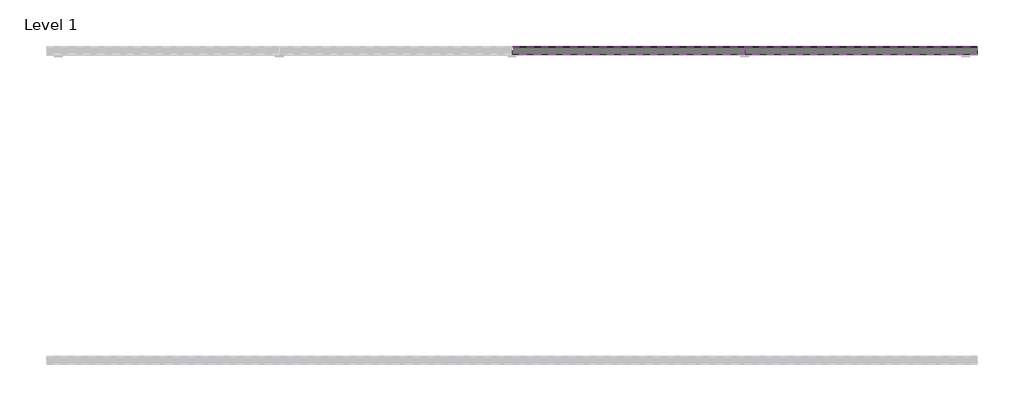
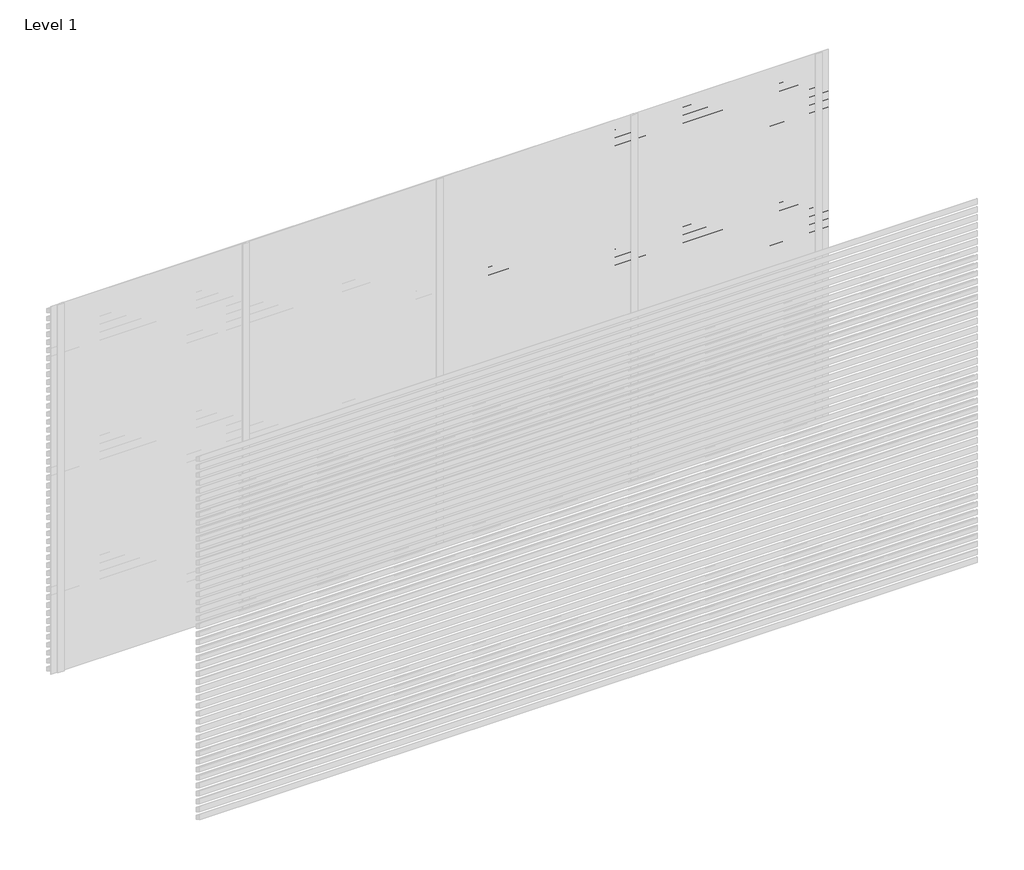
# One storey, part 10 of 10: 102 proxies.
"""IFC4 building model written with IfcOpenShell, lengths in millimetres."""

from ifc_helpers import new_model, si_unit, frame, origin, place, context, project, spatial, polyline, outline, extrude, element, save

model = new_model("IFC4")

# Units and contexts
model_context = context("Model", 3, world=origin())
ifc_project = project(units=[si_unit("LENGTHUNIT", "METRE", prefix="MILLI")], contexts=[model_context])

# Site, building, storey
site = spatial("IfcSite", under=ifc_project)
building = spatial("IfcBuilding", under=site)
storey = spatial("IfcBuildingStorey", under=building, Name="Level 1", Elevation=0.0)

# Proxies
placement = place(None, origin())
element("IfcBuildingElementProxy", 1, Name="Wall Sweeps", at=placement, inside=storey, context=model_context, shape_type="SweptSolid", body=[
    extrude(outline(polyline([(5.0, 650.0), (5.0, 641.2901632), (54.0, 613.0), (54.0, 578.0), (3.0, 607.4448637), (3.0, 650.0), (5.0, 650.0)])), frame((1500.0, 0.0, 0.0), z_axis=(1.0, 0.0, 0.0), x_axis=(0.0, 1.0, 0.0)), (0.0, 0.0, 1.0), 1500.0),
])
element("IfcBuildingElementProxy", 2, Name="Wall Sweeps", at=placement, inside=storey, context=model_context, shape_type="SweptSolid", body=[
    extrude(outline(polyline([(5.0, 585.0), (5.0, 576.2901632), (54.0, 548.0), (54.0, 513.0), (3.0, 542.4448637), (3.0, 585.0), (5.0, 585.0)])), frame((1500.0, 0.0, 0.0), z_axis=(1.0, 0.0, 0.0), x_axis=(0.0, 1.0, 0.0)), (0.0, 0.0, 1.0), 1500.0),
])
element("IfcBuildingElementProxy", 3, Name="Wall Sweeps", at=placement, inside=storey, context=model_context, shape_type="SweptSolid", body=[
    extrude(outline(polyline([(5.0, 520.0), (5.0, 511.2901632), (54.0, 483.0), (54.0, 448.0), (3.0, 477.4448637), (3.0, 520.0), (5.0, 520.0)])), frame((1500.0, 0.0, 0.0), z_axis=(1.0, 0.0, 0.0), x_axis=(0.0, 1.0, 0.0)), (0.0, 0.0, 1.0), 1500.0),
])
element("IfcBuildingElementProxy", 4, Name="Wall Sweeps", at=placement, inside=storey, context=model_context, shape_type="SweptSolid", body=[
    extrude(outline(polyline([(5.0, 455.0), (5.0, 446.2901632), (54.0, 418.0), (54.0, 383.0), (3.0, 412.4448637), (3.0, 455.0), (5.0, 455.0)])), frame((1500.0, 0.0, 0.0), z_axis=(1.0, 0.0, 0.0), x_axis=(0.0, 1.0, 0.0)), (0.0, 0.0, 1.0), 1500.0),
])
element("IfcBuildingElementProxy", 5, Name="Wall Sweeps", at=placement, inside=storey, context=model_context, shape_type="SweptSolid", body=[
    extrude(outline(polyline([(5.0, 390.0), (5.0, 381.2901632), (54.0, 353.0), (54.0, 318.0), (3.0, 347.4448637), (3.0, 390.0), (5.0, 390.0)])), frame((1500.0, 0.0, 0.0), z_axis=(1.0, 0.0, 0.0), x_axis=(0.0, 1.0, 0.0)), (0.0, 0.0, 1.0), 1500.0),
])
element("IfcBuildingElementProxy", 6, Name="Wall Sweeps", at=placement, inside=storey, context=model_context, shape_type="SweptSolid", body=[
    extrude(outline(polyline([(5.0, 325.0), (5.0, 316.2901632), (54.0, 288.0), (54.0, 253.0), (3.0, 282.4448637), (3.0, 325.0), (5.0, 325.0)])), frame((1500.0, 0.0, 0.0), z_axis=(1.0, 0.0, 0.0), x_axis=(0.0, 1.0, 0.0)), (0.0, 0.0, 1.0), 1500.0),
])
element("IfcBuildingElementProxy", 7, Name="Wall Sweeps", at=placement, inside=storey, context=model_context, shape_type="SweptSolid", body=[
    extrude(outline(polyline([(5.0, 260.0), (5.0, 251.2901632), (54.0, 223.0), (54.0, 188.0), (3.0, 217.4448637), (3.0, 260.0), (5.0, 260.0)])), frame((1500.0, 0.0, 0.0), z_axis=(1.0, 0.0, 0.0), x_axis=(0.0, 1.0, 0.0)), (0.0, 0.0, 1.0), 1500.0),
])
element("IfcBuildingElementProxy", 8, Name="Wall Sweeps", at=placement, inside=storey, context=model_context, shape_type="SweptSolid", body=[
    extrude(outline(polyline([(5.0, 195.0), (5.0, 186.2901632), (54.0, 158.0), (54.0, 123.0), (3.0, 152.4448637), (3.0, 195.0), (5.0, 195.0)])), frame((1500.0, 0.0, 0.0), z_axis=(1.0, 0.0, 0.0), x_axis=(0.0, 1.0, 0.0)), (0.0, 0.0, 1.0), 1500.0),
])
element("IfcBuildingElementProxy", 9, Name="Wall Sweeps", at=placement, inside=storey, context=model_context, shape_type="SweptSolid", body=[
    extrude(outline(polyline([(5.0, 130.0), (5.0, 121.2901632), (54.0, 93.0), (54.0, 58.0), (3.0, 87.4448637), (3.0, 130.0), (5.0, 130.0)])), frame((1500.0, 0.0, 0.0), z_axis=(1.0, 0.0, 0.0), x_axis=(0.0, 1.0, 0.0)), (0.0, 0.0, 1.0), 1500.0),
])
element("IfcBuildingElementProxy", 10, Name="Wall Sweeps", at=placement, inside=storey, context=model_context, shape_type="SweptSolid", body=[
    extrude(outline(polyline([(5.0, 65.0), (5.0, 56.2901632), (54.0, 28.0), (54.0, -7.0), (3.0, 22.4448637), (3.0, 65.0), (5.0, 65.0)])), frame((1500.0, 0.0, 0.0), z_axis=(1.0, 0.0, 0.0), x_axis=(0.0, 1.0, 0.0)), (0.0, 0.0, 1.0), 1500.0),
])
element("IfcBuildingElementProxy", 11, Name="Wall Sweeps", at=placement, inside=storey, context=model_context, shape_type="SweptSolid", body=[
    extrude(outline(polyline([(5.0, 2990.0), (5.0, 2981.2901632), (54.0, 2953.0), (54.0, 2918.0), (3.0, 2947.4448637), (3.0, 2990.0), (5.0, 2990.0)])), frame((3000.0, 0.0, 0.0), z_axis=(1.0, 0.0, 0.0), x_axis=(0.0, 1.0, 0.0)), (0.0, 0.0, 1.0), 1500.0),
])
element("IfcBuildingElementProxy", 12, Name="Wall Sweeps", at=placement, inside=storey, context=model_context, shape_type="SweptSolid", body=[
    extrude(outline(polyline([(5.0, 2925.0), (5.0, 2916.2901632), (54.0, 2888.0), (54.0, 2853.0), (3.0, 2882.4448637), (3.0, 2925.0), (5.0, 2925.0)])), frame((3000.0, 0.0, 0.0), z_axis=(1.0, 0.0, 0.0), x_axis=(0.0, 1.0, 0.0)), (0.0, 0.0, 1.0), 1500.0),
])
element("IfcBuildingElementProxy", 13, Name="Wall Sweeps", at=placement, inside=storey, context=model_context, shape_type="SweptSolid", body=[
    extrude(outline(polyline([(5.0, 2860.0), (5.0, 2851.2901632), (54.0, 2823.0), (54.0, 2788.0), (3.0, 2817.4448637), (3.0, 2860.0), (5.0, 2860.0)])), frame((3000.0, 0.0, 0.0), z_axis=(1.0, 0.0, 0.0), x_axis=(0.0, 1.0, 0.0)), (0.0, 0.0, 1.0), 1500.0),
])
element("IfcBuildingElementProxy", 14, Name="Wall Sweeps", at=placement, inside=storey, context=model_context, shape_type="SweptSolid", body=[
    extrude(outline(polyline([(5.0, 2795.0), (5.0, 2786.2901632), (54.0, 2758.0), (54.0, 2723.0), (3.0, 2752.4448637), (3.0, 2795.0), (5.0, 2795.0)])), frame((3000.0, 0.0, 0.0), z_axis=(1.0, 0.0, 0.0), x_axis=(0.0, 1.0, 0.0)), (0.0, 0.0, 1.0), 1500.0),
])
element("IfcBuildingElementProxy", 15, Name="Wall Sweeps", at=placement, inside=storey, context=model_context, shape_type="SweptSolid", body=[
    extrude(outline(polyline([(5.0, 2730.0), (5.0, 2721.2901632), (54.0, 2693.0), (54.0, 2658.0), (3.0, 2687.4448637), (3.0, 2730.0), (5.0, 2730.0)])), frame((3000.0, 0.0, 0.0), z_axis=(1.0, 0.0, 0.0), x_axis=(0.0, 1.0, 0.0)), (0.0, 0.0, 1.0), 1500.0),
])
element("IfcBuildingElementProxy", 16, Name="Wall Sweeps", at=placement, inside=storey, context=model_context, shape_type="SweptSolid", body=[
    extrude(outline(polyline([(5.0, 2665.0), (5.0, 2656.2901632), (54.0, 2628.0), (54.0, 2593.0), (3.0, 2622.4448637), (3.0, 2665.0), (5.0, 2665.0)])), frame((3000.0, 0.0, 0.0), z_axis=(1.0, 0.0, 0.0), x_axis=(0.0, 1.0, 0.0)), (0.0, 0.0, 1.0), 1500.0),
])
element("IfcBuildingElementProxy", 17, Name="Wall Sweeps", at=placement, inside=storey, context=model_context, shape_type="SweptSolid", body=[
    extrude(outline(polyline([(5.0, 2600.0), (5.0, 2591.2901632), (54.0, 2563.0), (54.0, 2528.0), (3.0, 2557.4448637), (3.0, 2600.0), (5.0, 2600.0)])), frame((3000.0, 0.0, 0.0), z_axis=(1.0, 0.0, 0.0), x_axis=(0.0, 1.0, 0.0)), (0.0, 0.0, 1.0), 1500.0),
])
element("IfcBuildingElementProxy", 18, Name="Wall Sweeps", at=placement, inside=storey, context=model_context, shape_type="SweptSolid", body=[
    extrude(outline(polyline([(5.0, 2535.0), (5.0, 2526.2901632), (54.0, 2498.0), (54.0, 2463.0), (3.0, 2492.4448637), (3.0, 2535.0), (5.0, 2535.0)])), frame((3000.0, 0.0, 0.0), z_axis=(1.0, 0.0, 0.0), x_axis=(0.0, 1.0, 0.0)), (0.0, 0.0, 1.0), 1500.0),
])
element("IfcBuildingElementProxy", 19, Name="Wall Sweeps", at=placement, inside=storey, context=model_context, shape_type="SweptSolid", body=[
    extrude(outline(polyline([(5.0, 2470.0), (5.0, 2461.2901632), (54.0, 2433.0), (54.0, 2398.0), (3.0, 2427.4448637), (3.0, 2470.0), (5.0, 2470.0)])), frame((3000.0, 0.0, 0.0), z_axis=(1.0, 0.0, 0.0), x_axis=(0.0, 1.0, 0.0)), (0.0, 0.0, 1.0), 1500.0),
])
element("IfcBuildingElementProxy", 20, Name="Wall Sweeps", at=placement, inside=storey, context=model_context, shape_type="SweptSolid", body=[
    extrude(outline(polyline([(5.0, 2405.0), (5.0, 2396.2901632), (54.0, 2368.0), (54.0, 2333.0), (3.0, 2362.4448637), (3.0, 2405.0), (5.0, 2405.0)])), frame((3000.0, 0.0, 0.0), z_axis=(1.0, 0.0, 0.0), x_axis=(0.0, 1.0, 0.0)), (0.0, 0.0, 1.0), 1500.0),
])
element("IfcBuildingElementProxy", 21, Name="Wall Sweeps", at=placement, inside=storey, context=model_context, shape_type="SweptSolid", body=[
    extrude(outline(polyline([(5.0, 2340.0), (5.0, 2331.2901632), (54.0, 2303.0), (54.0, 2268.0), (3.0, 2297.4448637), (3.0, 2340.0), (5.0, 2340.0)])), frame((3000.0, 0.0, 0.0), z_axis=(1.0, 0.0, 0.0), x_axis=(0.0, 1.0, 0.0)), (0.0, 0.0, 1.0), 1500.0),
])
element("IfcBuildingElementProxy", 22, Name="Wall Sweeps", at=placement, inside=storey, context=model_context, shape_type="SweptSolid", body=[
    extrude(outline(polyline([(5.0, 2275.0), (5.0, 2266.2901632), (54.0, 2238.0), (54.0, 2203.0), (3.0, 2232.4448637), (3.0, 2275.0), (5.0, 2275.0)])), frame((3000.0, 0.0, 0.0), z_axis=(1.0, 0.0, 0.0), x_axis=(0.0, 1.0, 0.0)), (0.0, 0.0, 1.0), 1500.0),
])
element("IfcBuildingElementProxy", 23, Name="Wall Sweeps", at=placement, inside=storey, context=model_context, shape_type="SweptSolid", body=[
    extrude(outline(polyline([(5.0, 2210.0), (5.0, 2201.2901632), (54.0, 2173.0), (54.0, 2138.0), (3.0, 2167.4448637), (3.0, 2210.0), (5.0, 2210.0)])), frame((3000.0, 0.0, 0.0), z_axis=(1.0, 0.0, 0.0), x_axis=(0.0, 1.0, 0.0)), (0.0, 0.0, 1.0), 1500.0),
])
element("IfcBuildingElementProxy", 24, Name="Wall Sweeps", at=placement, inside=storey, context=model_context, shape_type="SweptSolid", body=[
    extrude(outline(polyline([(5.0, 2145.0), (5.0, 2136.2901632), (54.0, 2108.0), (54.0, 2073.0), (3.0, 2102.4448637), (3.0, 2145.0), (5.0, 2145.0)])), frame((3000.0, 0.0, 0.0), z_axis=(1.0, 0.0, 0.0), x_axis=(0.0, 1.0, 0.0)), (0.0, 0.0, 1.0), 1500.0),
])
element("IfcBuildingElementProxy", 25, Name="Wall Sweeps", at=placement, inside=storey, context=model_context, shape_type="SweptSolid", body=[
    extrude(outline(polyline([(5.0, 2080.0), (5.0, 2071.2901632), (54.0, 2043.0), (54.0, 2008.0), (3.0, 2037.4448637), (3.0, 2080.0), (5.0, 2080.0)])), frame((3000.0, 0.0, 0.0), z_axis=(1.0, 0.0, 0.0), x_axis=(0.0, 1.0, 0.0)), (0.0, 0.0, 1.0), 1500.0),
])
element("IfcBuildingElementProxy", 26, Name="Wall Sweeps", at=placement, inside=storey, context=model_context, shape_type="SweptSolid", body=[
    extrude(outline(polyline([(5.0, 2015.0), (5.0, 2006.2901632), (54.0, 1978.0), (54.0, 1943.0), (3.0, 1972.4448637), (3.0, 2015.0), (5.0, 2015.0)])), frame((3000.0, 0.0, 0.0), z_axis=(1.0, 0.0, 0.0), x_axis=(0.0, 1.0, 0.0)), (0.0, 0.0, 1.0), 1500.0),
])
element("IfcBuildingElementProxy", 27, Name="Wall Sweeps", at=placement, inside=storey, context=model_context, shape_type="SweptSolid", body=[
    extrude(outline(polyline([(5.0, 1950.0), (5.0, 1941.2901632), (54.0, 1913.0), (54.0, 1878.0), (3.0, 1907.4448637), (3.0, 1950.0), (5.0, 1950.0)])), frame((3000.0, 0.0, 0.0), z_axis=(1.0, 0.0, 0.0), x_axis=(0.0, 1.0, 0.0)), (0.0, 0.0, 1.0), 1500.0),
])
element("IfcBuildingElementProxy", 28, Name="Wall Sweeps", at=placement, inside=storey, context=model_context, shape_type="SweptSolid", body=[
    extrude(outline(polyline([(5.0, 1885.0), (5.0, 1876.2901632), (54.0, 1848.0), (54.0, 1813.0), (3.0, 1842.4448637), (3.0, 1885.0), (5.0, 1885.0)])), frame((3000.0, 0.0, 0.0), z_axis=(1.0, 0.0, 0.0), x_axis=(0.0, 1.0, 0.0)), (0.0, 0.0, 1.0), 1500.0),
])
element("IfcBuildingElementProxy", 29, Name="Wall Sweeps", at=placement, inside=storey, context=model_context, shape_type="SweptSolid", body=[
    extrude(outline(polyline([(5.0, 1820.0), (5.0, 1811.2901632), (54.0, 1783.0), (54.0, 1748.0), (3.0, 1777.4448637), (3.0, 1820.0), (5.0, 1820.0)])), frame((3000.0, 0.0, 0.0), z_axis=(1.0, 0.0, 0.0), x_axis=(0.0, 1.0, 0.0)), (0.0, 0.0, 1.0), 1500.0),
])
element("IfcBuildingElementProxy", 30, Name="Wall Sweeps", at=placement, inside=storey, context=model_context, shape_type="SweptSolid", body=[
    extrude(outline(polyline([(5.0, 1755.0), (5.0, 1746.2901632), (54.0, 1718.0), (54.0, 1683.0), (3.0, 1712.4448637), (3.0, 1755.0), (5.0, 1755.0)])), frame((3000.0, 0.0, 0.0), z_axis=(1.0, 0.0, 0.0), x_axis=(0.0, 1.0, 0.0)), (0.0, 0.0, 1.0), 1500.0),
])
element("IfcBuildingElementProxy", 31, Name="Wall Sweeps", at=placement, inside=storey, context=model_context, shape_type="SweptSolid", body=[
    extrude(outline(polyline([(5.0, 1690.0), (5.0, 1681.2901632), (54.0, 1653.0), (54.0, 1618.0), (3.0, 1647.4448637), (3.0, 1690.0), (5.0, 1690.0)])), frame((3000.0, 0.0, 0.0), z_axis=(1.0, 0.0, 0.0), x_axis=(0.0, 1.0, 0.0)), (0.0, 0.0, 1.0), 1500.0),
])
element("IfcBuildingElementProxy", 32, Name="Wall Sweeps", at=placement, inside=storey, context=model_context, shape_type="SweptSolid", body=[
    extrude(outline(polyline([(5.0, 1625.0), (5.0, 1616.2901632), (54.0, 1588.0), (54.0, 1553.0), (3.0, 1582.4448637), (3.0, 1625.0), (5.0, 1625.0)])), frame((3000.0, 0.0, 0.0), z_axis=(1.0, 0.0, 0.0), x_axis=(0.0, 1.0, 0.0)), (0.0, 0.0, 1.0), 1500.0),
])
element("IfcBuildingElementProxy", 33, Name="Wall Sweeps", at=placement, inside=storey, context=model_context, shape_type="SweptSolid", body=[
    extrude(outline(polyline([(5.0, 1560.0), (5.0, 1551.2901632), (54.0, 1523.0), (54.0, 1488.0), (3.0, 1517.4448637), (3.0, 1560.0), (5.0, 1560.0)])), frame((3000.0, 0.0, 0.0), z_axis=(1.0, 0.0, 0.0), x_axis=(0.0, 1.0, 0.0)), (0.0, 0.0, 1.0), 1500.0),
])
element("IfcBuildingElementProxy", 34, Name="Wall Sweeps", at=placement, inside=storey, context=model_context, shape_type="SweptSolid", body=[
    extrude(outline(polyline([(5.0, 1495.0), (5.0, 1486.2901632), (54.0, 1458.0), (54.0, 1423.0), (3.0, 1452.4448637), (3.0, 1495.0), (5.0, 1495.0)])), frame((3000.0, 0.0, 0.0), z_axis=(1.0, 0.0, 0.0), x_axis=(0.0, 1.0, 0.0)), (0.0, 0.0, 1.0), 1500.0),
])
element("IfcBuildingElementProxy", 35, Name="Wall Sweeps", at=placement, inside=storey, context=model_context, shape_type="SweptSolid", body=[
    extrude(outline(polyline([(5.0, 1430.0), (5.0, 1421.2901632), (54.0, 1393.0), (54.0, 1358.0), (3.0, 1387.4448637), (3.0, 1430.0), (5.0, 1430.0)])), frame((3000.0, 0.0, 0.0), z_axis=(1.0, 0.0, 0.0), x_axis=(0.0, 1.0, 0.0)), (0.0, 0.0, 1.0), 1500.0),
])
element("IfcBuildingElementProxy", 36, Name="Wall Sweeps", at=placement, inside=storey, context=model_context, shape_type="SweptSolid", body=[
    extrude(outline(polyline([(5.0, 1365.0), (5.0, 1356.2901632), (54.0, 1328.0), (54.0, 1293.0), (3.0, 1322.4448637), (3.0, 1365.0), (5.0, 1365.0)])), frame((3000.0, 0.0, 0.0), z_axis=(1.0, 0.0, 0.0), x_axis=(0.0, 1.0, 0.0)), (0.0, 0.0, 1.0), 1500.0),
])
element("IfcBuildingElementProxy", 37, Name="Wall Sweeps", at=placement, inside=storey, context=model_context, shape_type="SweptSolid", body=[
    extrude(outline(polyline([(5.0, 1300.0), (5.0, 1291.2901632), (54.0, 1263.0), (54.0, 1228.0), (3.0, 1257.4448637), (3.0, 1300.0), (5.0, 1300.0)])), frame((3000.0, 0.0, 0.0), z_axis=(1.0, 0.0, 0.0), x_axis=(0.0, 1.0, 0.0)), (0.0, 0.0, 1.0), 1500.0),
])
element("IfcBuildingElementProxy", 38, Name="Wall Sweeps", at=placement, inside=storey, context=model_context, shape_type="SweptSolid", body=[
    extrude(outline(polyline([(5.0, 1235.0), (5.0, 1226.2901632), (54.0, 1198.0), (54.0, 1163.0), (3.0, 1192.4448637), (3.0, 1235.0), (5.0, 1235.0)])), frame((3000.0, 0.0, 0.0), z_axis=(1.0, 0.0, 0.0), x_axis=(0.0, 1.0, 0.0)), (0.0, 0.0, 1.0), 1500.0),
])
element("IfcBuildingElementProxy", 39, Name="Wall Sweeps", at=placement, inside=storey, context=model_context, shape_type="SweptSolid", body=[
    extrude(outline(polyline([(5.0, 1170.0), (5.0, 1161.2901632), (54.0, 1133.0), (54.0, 1098.0), (3.0, 1127.4448637), (3.0, 1170.0), (5.0, 1170.0)])), frame((3000.0, 0.0, 0.0), z_axis=(1.0, 0.0, 0.0), x_axis=(0.0, 1.0, 0.0)), (0.0, 0.0, 1.0), 1500.0),
])
element("IfcBuildingElementProxy", 40, Name="Wall Sweeps", at=placement, inside=storey, context=model_context, shape_type="SweptSolid", body=[
    extrude(outline(polyline([(5.0, 1105.0), (5.0, 1096.2901632), (54.0, 1068.0), (54.0, 1033.0), (3.0, 1062.4448637), (3.0, 1105.0), (5.0, 1105.0)])), frame((3000.0, 0.0, 0.0), z_axis=(1.0, 0.0, 0.0), x_axis=(0.0, 1.0, 0.0)), (0.0, 0.0, 1.0), 1500.0),
])
element("IfcBuildingElementProxy", 41, Name="Wall Sweeps", at=placement, inside=storey, context=model_context, shape_type="SweptSolid", body=[
    extrude(outline(polyline([(5.0, 1040.0), (5.0, 1031.2901632), (54.0, 1003.0), (54.0, 968.0), (3.0, 997.4448637), (3.0, 1040.0), (5.0, 1040.0)])), frame((3000.0, 0.0, 0.0), z_axis=(1.0, 0.0, 0.0), x_axis=(0.0, 1.0, 0.0)), (0.0, 0.0, 1.0), 1500.0),
])
element("IfcBuildingElementProxy", 42, Name="Wall Sweeps", at=placement, inside=storey, context=model_context, shape_type="SweptSolid", body=[
    extrude(outline(polyline([(5.0, 975.0), (5.0, 966.2901632), (54.0, 938.0), (54.0, 903.0), (3.0, 932.4448637), (3.0, 975.0), (5.0, 975.0)])), frame((3000.0, 0.0, 0.0), z_axis=(1.0, 0.0, 0.0), x_axis=(0.0, 1.0, 0.0)), (0.0, 0.0, 1.0), 1500.0),
])
element("IfcBuildingElementProxy", 43, Name="Wall Sweeps", at=placement, inside=storey, context=model_context, shape_type="SweptSolid", body=[
    extrude(outline(polyline([(5.0, 910.0), (5.0, 901.2901632), (54.0, 873.0), (54.0, 838.0), (3.0, 867.4448637), (3.0, 910.0), (5.0, 910.0)])), frame((3000.0, 0.0, 0.0), z_axis=(1.0, 0.0, 0.0), x_axis=(0.0, 1.0, 0.0)), (0.0, 0.0, 1.0), 1500.0),
])
element("IfcBuildingElementProxy", 44, Name="Wall Sweeps", at=placement, inside=storey, context=model_context, shape_type="SweptSolid", body=[
    extrude(outline(polyline([(5.0, 845.0), (5.0, 836.2901632), (54.0, 808.0), (54.0, 773.0), (3.0, 802.4448637), (3.0, 845.0), (5.0, 845.0)])), frame((3000.0, 0.0, 0.0), z_axis=(1.0, 0.0, 0.0), x_axis=(0.0, 1.0, 0.0)), (0.0, 0.0, 1.0), 1500.0),
])
element("IfcBuildingElementProxy", 45, Name="Wall Sweeps", at=placement, inside=storey, context=model_context, shape_type="SweptSolid", body=[
    extrude(outline(polyline([(5.0, 780.0), (5.0, 771.2901632), (54.0, 743.0), (54.0, 708.0), (3.0, 737.4448637), (3.0, 780.0), (5.0, 780.0)])), frame((3000.0, 0.0, 0.0), z_axis=(1.0, 0.0, 0.0), x_axis=(0.0, 1.0, 0.0)), (0.0, 0.0, 1.0), 1500.0),
])
element("IfcBuildingElementProxy", 46, Name="Wall Sweeps", at=placement, inside=storey, context=model_context, shape_type="SweptSolid", body=[
    extrude(outline(polyline([(5.0, 715.0), (5.0, 706.2901632), (54.0, 678.0), (54.0, 643.0), (3.0, 672.4448637), (3.0, 715.0), (5.0, 715.0)])), frame((3000.0, 0.0, 0.0), z_axis=(1.0, 0.0, 0.0), x_axis=(0.0, 1.0, 0.0)), (0.0, 0.0, 1.0), 1500.0),
])
element("IfcBuildingElementProxy", 47, Name="Wall Sweeps", at=placement, inside=storey, context=model_context, shape_type="SweptSolid", body=[
    extrude(outline(polyline([(5.0, 650.0), (5.0, 641.2901632), (54.0, 613.0), (54.0, 578.0), (3.0, 607.4448637), (3.0, 650.0), (5.0, 650.0)])), frame((3000.0, 0.0, 0.0), z_axis=(1.0, 0.0, 0.0), x_axis=(0.0, 1.0, 0.0)), (0.0, 0.0, 1.0), 1500.0),
])
element("IfcBuildingElementProxy", 48, Name="Wall Sweeps", at=placement, inside=storey, context=model_context, shape_type="SweptSolid", body=[
    extrude(outline(polyline([(5.0, 585.0), (5.0, 576.2901632), (54.0, 548.0), (54.0, 513.0), (3.0, 542.4448637), (3.0, 585.0), (5.0, 585.0)])), frame((3000.0, 0.0, 0.0), z_axis=(1.0, 0.0, 0.0), x_axis=(0.0, 1.0, 0.0)), (0.0, 0.0, 1.0), 1500.0),
])
element("IfcBuildingElementProxy", 49, Name="Wall Sweeps", at=placement, inside=storey, context=model_context, shape_type="SweptSolid", body=[
    extrude(outline(polyline([(5.0, 520.0), (5.0, 511.2901632), (54.0, 483.0), (54.0, 448.0), (3.0, 477.4448637), (3.0, 520.0), (5.0, 520.0)])), frame((3000.0, 0.0, 0.0), z_axis=(1.0, 0.0, 0.0), x_axis=(0.0, 1.0, 0.0)), (0.0, 0.0, 1.0), 1500.0),
])
element("IfcBuildingElementProxy", 50, Name="Wall Sweeps", at=placement, inside=storey, context=model_context, shape_type="SweptSolid", body=[
    extrude(outline(polyline([(5.0, 455.0), (5.0, 446.2901632), (54.0, 418.0), (54.0, 383.0), (3.0, 412.4448637), (3.0, 455.0), (5.0, 455.0)])), frame((3000.0, 0.0, 0.0), z_axis=(1.0, 0.0, 0.0), x_axis=(0.0, 1.0, 0.0)), (0.0, 0.0, 1.0), 1500.0),
])
element("IfcBuildingElementProxy", 51, Name="Wall Sweeps", at=placement, inside=storey, context=model_context, shape_type="SweptSolid", body=[
    extrude(outline(polyline([(5.0, 390.0), (5.0, 381.2901632), (54.0, 353.0), (54.0, 318.0), (3.0, 347.4448637), (3.0, 390.0), (5.0, 390.0)])), frame((3000.0, 0.0, 0.0), z_axis=(1.0, 0.0, 0.0), x_axis=(0.0, 1.0, 0.0)), (0.0, 0.0, 1.0), 1500.0),
])
element("IfcBuildingElementProxy", 52, Name="Wall Sweeps", at=placement, inside=storey, context=model_context, shape_type="SweptSolid", body=[
    extrude(outline(polyline([(5.0, 325.0), (5.0, 316.2901632), (54.0, 288.0), (54.0, 253.0), (3.0, 282.4448637), (3.0, 325.0), (5.0, 325.0)])), frame((3000.0, 0.0, 0.0), z_axis=(1.0, 0.0, 0.0), x_axis=(0.0, 1.0, 0.0)), (0.0, 0.0, 1.0), 1500.0),
])
element("IfcBuildingElementProxy", 53, Name="Wall Sweeps", at=placement, inside=storey, context=model_context, shape_type="SweptSolid", body=[
    extrude(outline(polyline([(5.0, 260.0), (5.0, 251.2901632), (54.0, 223.0), (54.0, 188.0), (3.0, 217.4448637), (3.0, 260.0), (5.0, 260.0)])), frame((3000.0, 0.0, 0.0), z_axis=(1.0, 0.0, 0.0), x_axis=(0.0, 1.0, 0.0)), (0.0, 0.0, 1.0), 1500.0),
])
element("IfcBuildingElementProxy", 54, Name="Wall Sweeps", at=placement, inside=storey, context=model_context, shape_type="SweptSolid", body=[
    extrude(outline(polyline([(5.0, 195.0), (5.0, 186.2901632), (54.0, 158.0), (54.0, 123.0), (3.0, 152.4448637), (3.0, 195.0), (5.0, 195.0)])), frame((3000.0, 0.0, 0.0), z_axis=(1.0, 0.0, 0.0), x_axis=(0.0, 1.0, 0.0)), (0.0, 0.0, 1.0), 1500.0),
])
element("IfcBuildingElementProxy", 55, Name="Wall Sweeps", at=placement, inside=storey, context=model_context, shape_type="SweptSolid", body=[
    extrude(outline(polyline([(5.0, 130.0), (5.0, 121.2901632), (54.0, 93.0), (54.0, 58.0), (3.0, 87.4448637), (3.0, 130.0), (5.0, 130.0)])), frame((3000.0, 0.0, 0.0), z_axis=(1.0, 0.0, 0.0), x_axis=(0.0, 1.0, 0.0)), (0.0, 0.0, 1.0), 1500.0),
])
element("IfcBuildingElementProxy", 56, Name="Wall Sweeps", at=placement, inside=storey, context=model_context, shape_type="SweptSolid", body=[
    extrude(outline(polyline([(5.0, 65.0), (5.0, 56.2901632), (54.0, 28.0), (54.0, -7.0), (3.0, 22.4448637), (3.0, 65.0), (5.0, 65.0)])), frame((3000.0, 0.0, 0.0), z_axis=(1.0, 0.0, 0.0), x_axis=(0.0, 1.0, 0.0)), (0.0, 0.0, 1.0), 1500.0),
])
element("IfcBuildingElementProxy", 57, Name="Wall Sweeps", at=placement, inside=storey, context=model_context, shape_type="SweptSolid", body=[
    extrude(outline(polyline([(5.0, 2990.0), (5.0, 2981.2901632), (54.0, 2953.0), (54.0, 2918.0), (3.0, 2947.4448637), (3.0, 2990.0), (5.0, 2990.0)])), frame((4500.0, 0.0, 0.0), z_axis=(1.0, 0.0, 0.0), x_axis=(0.0, 1.0, 0.0)), (0.0, 0.0, 1.0), 1500.0),
])
element("IfcBuildingElementProxy", 58, Name="Wall Sweeps", at=placement, inside=storey, context=model_context, shape_type="SweptSolid", body=[
    extrude(outline(polyline([(5.0, 2925.0), (5.0, 2916.2901632), (54.0, 2888.0), (54.0, 2853.0), (3.0, 2882.4448637), (3.0, 2925.0), (5.0, 2925.0)])), frame((4500.0, 0.0, 0.0), z_axis=(1.0, 0.0, 0.0), x_axis=(0.0, 1.0, 0.0)), (0.0, 0.0, 1.0), 1500.0),
])
element("IfcBuildingElementProxy", 59, Name="Wall Sweeps", at=placement, inside=storey, context=model_context, shape_type="SweptSolid", body=[
    extrude(outline(polyline([(5.0, 2860.0), (5.0, 2851.2901632), (54.0, 2823.0), (54.0, 2788.0), (3.0, 2817.4448637), (3.0, 2860.0), (5.0, 2860.0)])), frame((4500.0, 0.0, 0.0), z_axis=(1.0, 0.0, 0.0), x_axis=(0.0, 1.0, 0.0)), (0.0, 0.0, 1.0), 1500.0),
])
element("IfcBuildingElementProxy", 60, Name="Wall Sweeps", at=placement, inside=storey, context=model_context, shape_type="SweptSolid", body=[
    extrude(outline(polyline([(5.0, 2795.0), (5.0, 2786.2901632), (54.0, 2758.0), (54.0, 2723.0), (3.0, 2752.4448637), (3.0, 2795.0), (5.0, 2795.0)])), frame((4500.0, 0.0, 0.0), z_axis=(1.0, 0.0, 0.0), x_axis=(0.0, 1.0, 0.0)), (0.0, 0.0, 1.0), 1500.0),
])
element("IfcBuildingElementProxy", 61, Name="Wall Sweeps", at=placement, inside=storey, context=model_context, shape_type="SweptSolid", body=[
    extrude(outline(polyline([(5.0, 2730.0), (5.0, 2721.2901632), (54.0, 2693.0), (54.0, 2658.0), (3.0, 2687.4448637), (3.0, 2730.0), (5.0, 2730.0)])), frame((4500.0, 0.0, 0.0), z_axis=(1.0, 0.0, 0.0), x_axis=(0.0, 1.0, 0.0)), (0.0, 0.0, 1.0), 1500.0),
])
element("IfcBuildingElementProxy", 62, Name="Wall Sweeps", at=placement, inside=storey, context=model_context, shape_type="SweptSolid", body=[
    extrude(outline(polyline([(5.0, 2665.0), (5.0, 2656.2901632), (54.0, 2628.0), (54.0, 2593.0), (3.0, 2622.4448637), (3.0, 2665.0), (5.0, 2665.0)])), frame((4500.0, 0.0, 0.0), z_axis=(1.0, 0.0, 0.0), x_axis=(0.0, 1.0, 0.0)), (0.0, 0.0, 1.0), 1500.0),
])
element("IfcBuildingElementProxy", 63, Name="Wall Sweeps", at=placement, inside=storey, context=model_context, shape_type="SweptSolid", body=[
    extrude(outline(polyline([(5.0, 2600.0), (5.0, 2591.2901632), (54.0, 2563.0), (54.0, 2528.0), (3.0, 2557.4448637), (3.0, 2600.0), (5.0, 2600.0)])), frame((4500.0, 0.0, 0.0), z_axis=(1.0, 0.0, 0.0), x_axis=(0.0, 1.0, 0.0)), (0.0, 0.0, 1.0), 1500.0),
])
element("IfcBuildingElementProxy", 64, Name="Wall Sweeps", at=placement, inside=storey, context=model_context, shape_type="SweptSolid", body=[
    extrude(outline(polyline([(5.0, 2535.0), (5.0, 2526.2901632), (54.0, 2498.0), (54.0, 2463.0), (3.0, 2492.4448637), (3.0, 2535.0), (5.0, 2535.0)])), frame((4500.0, 0.0, 0.0), z_axis=(1.0, 0.0, 0.0), x_axis=(0.0, 1.0, 0.0)), (0.0, 0.0, 1.0), 1500.0),
])
element("IfcBuildingElementProxy", 65, Name="Wall Sweeps", at=placement, inside=storey, context=model_context, shape_type="SweptSolid", body=[
    extrude(outline(polyline([(5.0, 2470.0), (5.0, 2461.2901632), (54.0, 2433.0), (54.0, 2398.0), (3.0, 2427.4448637), (3.0, 2470.0), (5.0, 2470.0)])), frame((4500.0, 0.0, 0.0), z_axis=(1.0, 0.0, 0.0), x_axis=(0.0, 1.0, 0.0)), (0.0, 0.0, 1.0), 1500.0),
])
element("IfcBuildingElementProxy", 66, Name="Wall Sweeps", at=placement, inside=storey, context=model_context, shape_type="SweptSolid", body=[
    extrude(outline(polyline([(5.0, 2405.0), (5.0, 2396.2901632), (54.0, 2368.0), (54.0, 2333.0), (3.0, 2362.4448637), (3.0, 2405.0), (5.0, 2405.0)])), frame((4500.0, 0.0, 0.0), z_axis=(1.0, 0.0, 0.0), x_axis=(0.0, 1.0, 0.0)), (0.0, 0.0, 1.0), 1500.0),
])
element("IfcBuildingElementProxy", 67, Name="Wall Sweeps", at=placement, inside=storey, context=model_context, shape_type="SweptSolid", body=[
    extrude(outline(polyline([(5.0, 2340.0), (5.0, 2331.2901632), (54.0, 2303.0), (54.0, 2268.0), (3.0, 2297.4448637), (3.0, 2340.0), (5.0, 2340.0)])), frame((4500.0, 0.0, 0.0), z_axis=(1.0, 0.0, 0.0), x_axis=(0.0, 1.0, 0.0)), (0.0, 0.0, 1.0), 1500.0),
])
element("IfcBuildingElementProxy", 68, Name="Wall Sweeps", at=placement, inside=storey, context=model_context, shape_type="SweptSolid", body=[
    extrude(outline(polyline([(5.0, 2275.0), (5.0, 2266.2901632), (54.0, 2238.0), (54.0, 2203.0), (3.0, 2232.4448637), (3.0, 2275.0), (5.0, 2275.0)])), frame((4500.0, 0.0, 0.0), z_axis=(1.0, 0.0, 0.0), x_axis=(0.0, 1.0, 0.0)), (0.0, 0.0, 1.0), 1500.0),
])
element("IfcBuildingElementProxy", 69, Name="Wall Sweeps", at=placement, inside=storey, context=model_context, shape_type="SweptSolid", body=[
    extrude(outline(polyline([(5.0, 2210.0), (5.0, 2201.2901632), (54.0, 2173.0), (54.0, 2138.0), (3.0, 2167.4448637), (3.0, 2210.0), (5.0, 2210.0)])), frame((4500.0, 0.0, 0.0), z_axis=(1.0, 0.0, 0.0), x_axis=(0.0, 1.0, 0.0)), (0.0, 0.0, 1.0), 1500.0),
])
element("IfcBuildingElementProxy", 70, Name="Wall Sweeps", at=placement, inside=storey, context=model_context, shape_type="SweptSolid", body=[
    extrude(outline(polyline([(5.0, 2145.0), (5.0, 2136.2901632), (54.0, 2108.0), (54.0, 2073.0), (3.0, 2102.4448637), (3.0, 2145.0), (5.0, 2145.0)])), frame((4500.0, 0.0, 0.0), z_axis=(1.0, 0.0, 0.0), x_axis=(0.0, 1.0, 0.0)), (0.0, 0.0, 1.0), 1500.0),
])
element("IfcBuildingElementProxy", 71, Name="Wall Sweeps", at=placement, inside=storey, context=model_context, shape_type="SweptSolid", body=[
    extrude(outline(polyline([(5.0, 2080.0), (5.0, 2071.2901632), (54.0, 2043.0), (54.0, 2008.0), (3.0, 2037.4448637), (3.0, 2080.0), (5.0, 2080.0)])), frame((4500.0, 0.0, 0.0), z_axis=(1.0, 0.0, 0.0), x_axis=(0.0, 1.0, 0.0)), (0.0, 0.0, 1.0), 1500.0),
])
element("IfcBuildingElementProxy", 72, Name="Wall Sweeps", at=placement, inside=storey, context=model_context, shape_type="SweptSolid", body=[
    extrude(outline(polyline([(5.0, 2015.0), (5.0, 2006.2901632), (54.0, 1978.0), (54.0, 1943.0), (3.0, 1972.4448637), (3.0, 2015.0), (5.0, 2015.0)])), frame((4500.0, 0.0, 0.0), z_axis=(1.0, 0.0, 0.0), x_axis=(0.0, 1.0, 0.0)), (0.0, 0.0, 1.0), 1500.0),
])
element("IfcBuildingElementProxy", 73, Name="Wall Sweeps", at=placement, inside=storey, context=model_context, shape_type="SweptSolid", body=[
    extrude(outline(polyline([(5.0, 1950.0), (5.0, 1941.2901632), (54.0, 1913.0), (54.0, 1878.0), (3.0, 1907.4448637), (3.0, 1950.0), (5.0, 1950.0)])), frame((4500.0, 0.0, 0.0), z_axis=(1.0, 0.0, 0.0), x_axis=(0.0, 1.0, 0.0)), (0.0, 0.0, 1.0), 1500.0),
])
element("IfcBuildingElementProxy", 74, Name="Wall Sweeps", at=placement, inside=storey, context=model_context, shape_type="SweptSolid", body=[
    extrude(outline(polyline([(5.0, 1885.0), (5.0, 1876.2901632), (54.0, 1848.0), (54.0, 1813.0), (3.0, 1842.4448637), (3.0, 1885.0), (5.0, 1885.0)])), frame((4500.0, 0.0, 0.0), z_axis=(1.0, 0.0, 0.0), x_axis=(0.0, 1.0, 0.0)), (0.0, 0.0, 1.0), 1500.0),
])
element("IfcBuildingElementProxy", 75, Name="Wall Sweeps", at=placement, inside=storey, context=model_context, shape_type="SweptSolid", body=[
    extrude(outline(polyline([(5.0, 1820.0), (5.0, 1811.2901632), (54.0, 1783.0), (54.0, 1748.0), (3.0, 1777.4448637), (3.0, 1820.0), (5.0, 1820.0)])), frame((4500.0, 0.0, 0.0), z_axis=(1.0, 0.0, 0.0), x_axis=(0.0, 1.0, 0.0)), (0.0, 0.0, 1.0), 1500.0),
])
element("IfcBuildingElementProxy", 76, Name="Wall Sweeps", at=placement, inside=storey, context=model_context, shape_type="SweptSolid", body=[
    extrude(outline(polyline([(5.0, 1755.0), (5.0, 1746.2901632), (54.0, 1718.0), (54.0, 1683.0), (3.0, 1712.4448637), (3.0, 1755.0), (5.0, 1755.0)])), frame((4500.0, 0.0, 0.0), z_axis=(1.0, 0.0, 0.0), x_axis=(0.0, 1.0, 0.0)), (0.0, 0.0, 1.0), 1500.0),
])
element("IfcBuildingElementProxy", 77, Name="Wall Sweeps", at=placement, inside=storey, context=model_context, shape_type="SweptSolid", body=[
    extrude(outline(polyline([(5.0, 1690.0), (5.0, 1681.2901632), (54.0, 1653.0), (54.0, 1618.0), (3.0, 1647.4448637), (3.0, 1690.0), (5.0, 1690.0)])), frame((4500.0, 0.0, 0.0), z_axis=(1.0, 0.0, 0.0), x_axis=(0.0, 1.0, 0.0)), (0.0, 0.0, 1.0), 1500.0),
])
element("IfcBuildingElementProxy", 78, Name="Wall Sweeps", at=placement, inside=storey, context=model_context, shape_type="SweptSolid", body=[
    extrude(outline(polyline([(5.0, 1625.0), (5.0, 1616.2901632), (54.0, 1588.0), (54.0, 1553.0), (3.0, 1582.4448637), (3.0, 1625.0), (5.0, 1625.0)])), frame((4500.0, 0.0, 0.0), z_axis=(1.0, 0.0, 0.0), x_axis=(0.0, 1.0, 0.0)), (0.0, 0.0, 1.0), 1500.0),
])
element("IfcBuildingElementProxy", 79, Name="Wall Sweeps", at=placement, inside=storey, context=model_context, shape_type="SweptSolid", body=[
    extrude(outline(polyline([(5.0, 1560.0), (5.0, 1551.2901632), (54.0, 1523.0), (54.0, 1488.0), (3.0, 1517.4448637), (3.0, 1560.0), (5.0, 1560.0)])), frame((4500.0, 0.0, 0.0), z_axis=(1.0, 0.0, 0.0), x_axis=(0.0, 1.0, 0.0)), (0.0, 0.0, 1.0), 1500.0),
])
element("IfcBuildingElementProxy", 80, Name="Wall Sweeps", at=placement, inside=storey, context=model_context, shape_type="SweptSolid", body=[
    extrude(outline(polyline([(5.0, 1495.0), (5.0, 1486.2901632), (54.0, 1458.0), (54.0, 1423.0), (3.0, 1452.4448637), (3.0, 1495.0), (5.0, 1495.0)])), frame((4500.0, 0.0, 0.0), z_axis=(1.0, 0.0, 0.0), x_axis=(0.0, 1.0, 0.0)), (0.0, 0.0, 1.0), 1500.0),
])
element("IfcBuildingElementProxy", 81, Name="Wall Sweeps", at=placement, inside=storey, context=model_context, shape_type="SweptSolid", body=[
    extrude(outline(polyline([(5.0, 1430.0), (5.0, 1421.2901632), (54.0, 1393.0), (54.0, 1358.0), (3.0, 1387.4448637), (3.0, 1430.0), (5.0, 1430.0)])), frame((4500.0, 0.0, 0.0), z_axis=(1.0, 0.0, 0.0), x_axis=(0.0, 1.0, 0.0)), (0.0, 0.0, 1.0), 1500.0),
])
element("IfcBuildingElementProxy", 82, Name="Wall Sweeps", at=placement, inside=storey, context=model_context, shape_type="SweptSolid", body=[
    extrude(outline(polyline([(5.0, 1365.0), (5.0, 1356.2901632), (54.0, 1328.0), (54.0, 1293.0), (3.0, 1322.4448637), (3.0, 1365.0), (5.0, 1365.0)])), frame((4500.0, 0.0, 0.0), z_axis=(1.0, 0.0, 0.0), x_axis=(0.0, 1.0, 0.0)), (0.0, 0.0, 1.0), 1500.0),
])
element("IfcBuildingElementProxy", 83, Name="Wall Sweeps", at=placement, inside=storey, context=model_context, shape_type="SweptSolid", body=[
    extrude(outline(polyline([(5.0, 1300.0), (5.0, 1291.2901632), (54.0, 1263.0), (54.0, 1228.0), (3.0, 1257.4448637), (3.0, 1300.0), (5.0, 1300.0)])), frame((4500.0, 0.0, 0.0), z_axis=(1.0, 0.0, 0.0), x_axis=(0.0, 1.0, 0.0)), (0.0, 0.0, 1.0), 1500.0),
])
element("IfcBuildingElementProxy", 84, Name="Wall Sweeps", at=placement, inside=storey, context=model_context, shape_type="SweptSolid", body=[
    extrude(outline(polyline([(5.0, 1235.0), (5.0, 1226.2901632), (54.0, 1198.0), (54.0, 1163.0), (3.0, 1192.4448637), (3.0, 1235.0), (5.0, 1235.0)])), frame((4500.0, 0.0, 0.0), z_axis=(1.0, 0.0, 0.0), x_axis=(0.0, 1.0, 0.0)), (0.0, 0.0, 1.0), 1500.0),
])
element("IfcBuildingElementProxy", 85, Name="Wall Sweeps", at=placement, inside=storey, context=model_context, shape_type="SweptSolid", body=[
    extrude(outline(polyline([(5.0, 1170.0), (5.0, 1161.2901632), (54.0, 1133.0), (54.0, 1098.0), (3.0, 1127.4448637), (3.0, 1170.0), (5.0, 1170.0)])), frame((4500.0, 0.0, 0.0), z_axis=(1.0, 0.0, 0.0), x_axis=(0.0, 1.0, 0.0)), (0.0, 0.0, 1.0), 1500.0),
])
element("IfcBuildingElementProxy", 86, Name="Wall Sweeps", at=placement, inside=storey, context=model_context, shape_type="SweptSolid", body=[
    extrude(outline(polyline([(5.0, 1105.0), (5.0, 1096.2901632), (54.0, 1068.0), (54.0, 1033.0), (3.0, 1062.4448637), (3.0, 1105.0), (5.0, 1105.0)])), frame((4500.0, 0.0, 0.0), z_axis=(1.0, 0.0, 0.0), x_axis=(0.0, 1.0, 0.0)), (0.0, 0.0, 1.0), 1500.0),
])
element("IfcBuildingElementProxy", 87, Name="Wall Sweeps", at=placement, inside=storey, context=model_context, shape_type="SweptSolid", body=[
    extrude(outline(polyline([(5.0, 1040.0), (5.0, 1031.2901632), (54.0, 1003.0), (54.0, 968.0), (3.0, 997.4448637), (3.0, 1040.0), (5.0, 1040.0)])), frame((4500.0, 0.0, 0.0), z_axis=(1.0, 0.0, 0.0), x_axis=(0.0, 1.0, 0.0)), (0.0, 0.0, 1.0), 1500.0),
])
element("IfcBuildingElementProxy", 88, Name="Wall Sweeps", at=placement, inside=storey, context=model_context, shape_type="SweptSolid", body=[
    extrude(outline(polyline([(5.0, 975.0), (5.0, 966.2901632), (54.0, 938.0), (54.0, 903.0), (3.0, 932.4448637), (3.0, 975.0), (5.0, 975.0)])), frame((4500.0, 0.0, 0.0), z_axis=(1.0, 0.0, 0.0), x_axis=(0.0, 1.0, 0.0)), (0.0, 0.0, 1.0), 1500.0),
])
element("IfcBuildingElementProxy", 89, Name="Wall Sweeps", at=placement, inside=storey, context=model_context, shape_type="SweptSolid", body=[
    extrude(outline(polyline([(5.0, 910.0), (5.0, 901.2901632), (54.0, 873.0), (54.0, 838.0), (3.0, 867.4448637), (3.0, 910.0), (5.0, 910.0)])), frame((4500.0, 0.0, 0.0), z_axis=(1.0, 0.0, 0.0), x_axis=(0.0, 1.0, 0.0)), (0.0, 0.0, 1.0), 1500.0),
])
element("IfcBuildingElementProxy", 90, Name="Wall Sweeps", at=placement, inside=storey, context=model_context, shape_type="SweptSolid", body=[
    extrude(outline(polyline([(5.0, 845.0), (5.0, 836.2901632), (54.0, 808.0), (54.0, 773.0), (3.0, 802.4448637), (3.0, 845.0), (5.0, 845.0)])), frame((4500.0, 0.0, 0.0), z_axis=(1.0, 0.0, 0.0), x_axis=(0.0, 1.0, 0.0)), (0.0, 0.0, 1.0), 1500.0),
])
element("IfcBuildingElementProxy", 91, Name="Wall Sweeps", at=placement, inside=storey, context=model_context, shape_type="SweptSolid", body=[
    extrude(outline(polyline([(5.0, 780.0), (5.0, 771.2901632), (54.0, 743.0), (54.0, 708.0), (3.0, 737.4448637), (3.0, 780.0), (5.0, 780.0)])), frame((4500.0, 0.0, 0.0), z_axis=(1.0, 0.0, 0.0), x_axis=(0.0, 1.0, 0.0)), (0.0, 0.0, 1.0), 1500.0),
])
element("IfcBuildingElementProxy", 92, Name="Wall Sweeps", at=placement, inside=storey, context=model_context, shape_type="SweptSolid", body=[
    extrude(outline(polyline([(5.0, 715.0), (5.0, 706.2901632), (54.0, 678.0), (54.0, 643.0), (3.0, 672.4448637), (3.0, 715.0), (5.0, 715.0)])), frame((4500.0, 0.0, 0.0), z_axis=(1.0, 0.0, 0.0), x_axis=(0.0, 1.0, 0.0)), (0.0, 0.0, 1.0), 1500.0),
])
element("IfcBuildingElementProxy", 93, Name="Wall Sweeps", at=placement, inside=storey, context=model_context, shape_type="SweptSolid", body=[
    extrude(outline(polyline([(5.0, 650.0), (5.0, 641.2901632), (54.0, 613.0), (54.0, 578.0), (3.0, 607.4448637), (3.0, 650.0), (5.0, 650.0)])), frame((4500.0, 0.0, 0.0), z_axis=(1.0, 0.0, 0.0), x_axis=(0.0, 1.0, 0.0)), (0.0, 0.0, 1.0), 1500.0),
])
element("IfcBuildingElementProxy", 94, Name="Wall Sweeps", at=placement, inside=storey, context=model_context, shape_type="SweptSolid", body=[
    extrude(outline(polyline([(5.0, 585.0), (5.0, 576.2901632), (54.0, 548.0), (54.0, 513.0), (3.0, 542.4448637), (3.0, 585.0), (5.0, 585.0)])), frame((4500.0, 0.0, 0.0), z_axis=(1.0, 0.0, 0.0), x_axis=(0.0, 1.0, 0.0)), (0.0, 0.0, 1.0), 1500.0),
])
element("IfcBuildingElementProxy", 95, Name="Wall Sweeps", at=placement, inside=storey, context=model_context, shape_type="SweptSolid", body=[
    extrude(outline(polyline([(5.0, 520.0), (5.0, 511.2901632), (54.0, 483.0), (54.0, 448.0), (3.0, 477.4448637), (3.0, 520.0), (5.0, 520.0)])), frame((4500.0, 0.0, 0.0), z_axis=(1.0, 0.0, 0.0), x_axis=(0.0, 1.0, 0.0)), (0.0, 0.0, 1.0), 1500.0),
])
element("IfcBuildingElementProxy", 96, Name="Wall Sweeps", at=placement, inside=storey, context=model_context, shape_type="SweptSolid", body=[
    extrude(outline(polyline([(5.0, 455.0), (5.0, 446.2901632), (54.0, 418.0), (54.0, 383.0), (3.0, 412.4448637), (3.0, 455.0), (5.0, 455.0)])), frame((4500.0, 0.0, 0.0), z_axis=(1.0, 0.0, 0.0), x_axis=(0.0, 1.0, 0.0)), (0.0, 0.0, 1.0), 1500.0),
])
element("IfcBuildingElementProxy", 97, Name="Wall Sweeps", at=placement, inside=storey, context=model_context, shape_type="SweptSolid", body=[
    extrude(outline(polyline([(5.0, 390.0), (5.0, 381.2901632), (54.0, 353.0), (54.0, 318.0), (3.0, 347.4448637), (3.0, 390.0), (5.0, 390.0)])), frame((4500.0, 0.0, 0.0), z_axis=(1.0, 0.0, 0.0), x_axis=(0.0, 1.0, 0.0)), (0.0, 0.0, 1.0), 1500.0),
])
element("IfcBuildingElementProxy", 98, Name="Wall Sweeps", at=placement, inside=storey, context=model_context, shape_type="SweptSolid", body=[
    extrude(outline(polyline([(5.0, 325.0), (5.0, 316.2901632), (54.0, 288.0), (54.0, 253.0), (3.0, 282.4448637), (3.0, 325.0), (5.0, 325.0)])), frame((4500.0, 0.0, 0.0), z_axis=(1.0, 0.0, 0.0), x_axis=(0.0, 1.0, 0.0)), (0.0, 0.0, 1.0), 1500.0),
])
element("IfcBuildingElementProxy", 99, Name="Wall Sweeps", at=placement, inside=storey, context=model_context, shape_type="SweptSolid", body=[
    extrude(outline(polyline([(5.0, 260.0), (5.0, 251.2901632), (54.0, 223.0), (54.0, 188.0), (3.0, 217.4448637), (3.0, 260.0), (5.0, 260.0)])), frame((4500.0, 0.0, 0.0), z_axis=(1.0, 0.0, 0.0), x_axis=(0.0, 1.0, 0.0)), (0.0, 0.0, 1.0), 1500.0),
])
element("IfcBuildingElementProxy", 100, Name="Wall Sweeps", at=placement, inside=storey, context=model_context, shape_type="SweptSolid", body=[
    extrude(outline(polyline([(5.0, 195.0), (5.0, 186.2901632), (54.0, 158.0), (54.0, 123.0), (3.0, 152.4448637), (3.0, 195.0), (5.0, 195.0)])), frame((4500.0, 0.0, 0.0), z_axis=(1.0, 0.0, 0.0), x_axis=(0.0, 1.0, 0.0)), (0.0, 0.0, 1.0), 1500.0),
])
element("IfcBuildingElementProxy", 101, Name="Wall Sweeps", at=placement, inside=storey, context=model_context, shape_type="SweptSolid", body=[
    extrude(outline(polyline([(5.0, 130.0), (5.0, 121.2901632), (54.0, 93.0), (54.0, 58.0), (3.0, 87.4448637), (3.0, 130.0), (5.0, 130.0)])), frame((4500.0, 0.0, 0.0), z_axis=(1.0, 0.0, 0.0), x_axis=(0.0, 1.0, 0.0)), (0.0, 0.0, 1.0), 1500.0),
])
element("IfcBuildingElementProxy", 102, Name="Wall Sweeps", at=placement, inside=storey, context=model_context, shape_type="SweptSolid", body=[
    extrude(outline(polyline([(5.0, 65.0), (5.0, 56.2901632), (54.0, 28.0), (54.0, -7.0), (3.0, 22.4448637), (3.0, 65.0), (5.0, 65.0)])), frame((4500.0, 0.0, 0.0), z_axis=(1.0, 0.0, 0.0), x_axis=(0.0, 1.0, 0.0)), (0.0, 0.0, 1.0), 1500.0),
])

save(model, "model.ifc")
